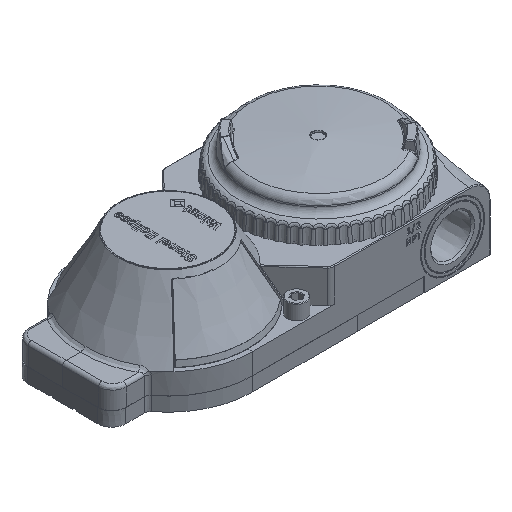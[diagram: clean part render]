
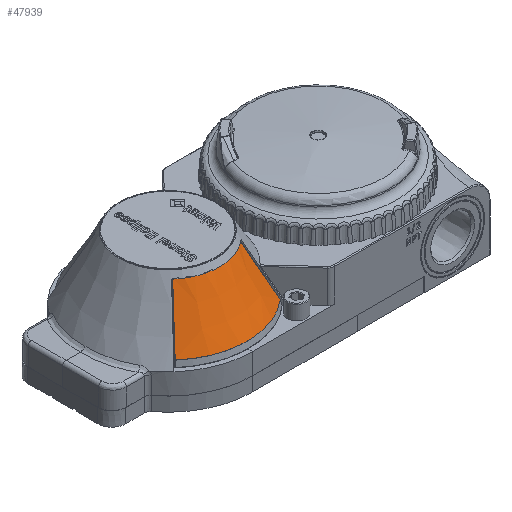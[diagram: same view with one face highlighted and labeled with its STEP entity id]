
A CAD part, isometric view. The second image highlights one B-rep face of the part: STEP entity #47939.
In plain terms, the highlighted conical face has half-angle 30 degrees and reference radius 29.596 mm.
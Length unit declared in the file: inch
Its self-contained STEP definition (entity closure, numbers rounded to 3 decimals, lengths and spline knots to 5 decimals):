
#3013=B_SPLINE_CURVE_WITH_KNOTS('',3,(#81819,#81820,#81821,#81822),
 .UNSPECIFIED.,.F.,.F.,(4,4),(-2.65247,-0.022),
 .UNSPECIFIED.);
#3017=B_SPLINE_CURVE_WITH_KNOTS('',3,(#81876,#81877,#81878,#81879),
 .UNSPECIFIED.,.F.,.F.,(4,4),(0.022,2.65247),
 .UNSPECIFIED.);
#4507=CONICAL_SURFACE('',#51446,1.16519,0.524);
#5608=FACE_OUTER_BOUND('',#8389,.T.);
#8389=EDGE_LOOP('',(#34086,#34087,#34088,#34089));
#11111=CIRCLE('',#51436,0.90683);
#11112=CIRCLE('',#51438,1.42464);
#19845=VERTEX_POINT('',#81780);
#19848=VERTEX_POINT('',#81787);
#19852=VERTEX_POINT('',#81818);
#19855=VERTEX_POINT('',#81841);
#25132=EDGE_CURVE('',#19848,#19852,#3013,.T.);
#25136=EDGE_CURVE('',#19852,#19855,#11111,.T.);
#25138=EDGE_CURVE('',#19855,#19845,#3017,.T.);
#25143=EDGE_CURVE('',#19845,#19848,#11112,.T.);
#34086=ORIENTED_EDGE('',*,*,#25132,.F.);
#34087=ORIENTED_EDGE('',*,*,#25143,.F.);
#34088=ORIENTED_EDGE('',*,*,#25138,.F.);
#34089=ORIENTED_EDGE('',*,*,#25136,.F.);
#47939=ADVANCED_FACE('',(#5608),#4507,.T.);
#51436=AXIS2_PLACEMENT_3D('',#81842,#58326,#58327);
#51438=AXIS2_PLACEMENT_3D('',#81921,#58330,#58331);
#51446=AXIS2_PLACEMENT_3D('',#81966,#58353,#58354);
#58326=DIRECTION('center_axis',(0.,0.,1.));
#58327=DIRECTION('ref_axis',(0.,-1.,0.));
#58330=DIRECTION('center_axis',(0.,0.,
-1.));
#58331=DIRECTION('ref_axis',(0.,-1.,0.));
#58353=DIRECTION('center_axis',(0.,0.,-1.));
#58354=DIRECTION('ref_axis',(-0.663,-0.749,0.));
#81780=CARTESIAN_POINT('',(0.93852,-1.07181,0.74263));
#81787=CARTESIAN_POINT('',(-0.93852,-1.07181,0.74263));
#81818=CARTESIAN_POINT('',(-0.59539,-0.68399,1.6395));
#81819=CARTESIAN_POINT('Ctrl Pts',(-0.93852,-1.07181,
0.74263));
#81820=CARTESIAN_POINT('Ctrl Pts',(-0.82414,-0.94254,
1.04159));
#81821=CARTESIAN_POINT('Ctrl Pts',(-0.70977,-0.81326,
1.34054));
#81822=CARTESIAN_POINT('Ctrl Pts',(-0.59539,-0.68399,
1.6395));
#81841=CARTESIAN_POINT('',(0.59539,-0.68399,1.6395));
#81842=CARTESIAN_POINT('Origin',(0.,0.,
1.6395));
#81876=CARTESIAN_POINT('Ctrl Pts',(0.59539,-0.68399,
1.6395));
#81877=CARTESIAN_POINT('Ctrl Pts',(0.70977,-0.81326,
1.34054));
#81878=CARTESIAN_POINT('Ctrl Pts',(0.82414,-0.94254,
1.04159));
#81879=CARTESIAN_POINT('Ctrl Pts',(0.93852,-1.07181,
0.74263));
#81921=CARTESIAN_POINT('Origin',(0.,0.,
0.74263));
#81966=CARTESIAN_POINT('Origin',(0.,0.,
1.192));
